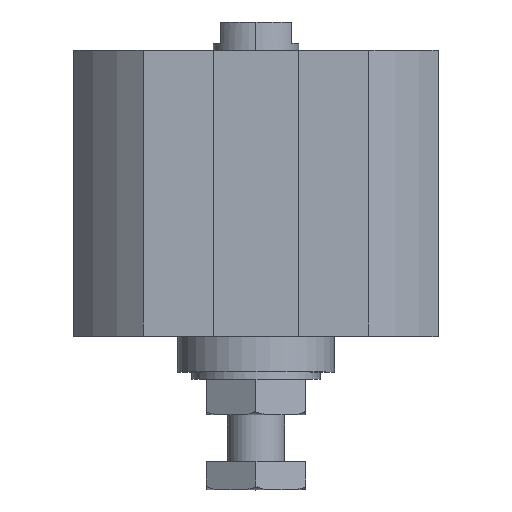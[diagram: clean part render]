
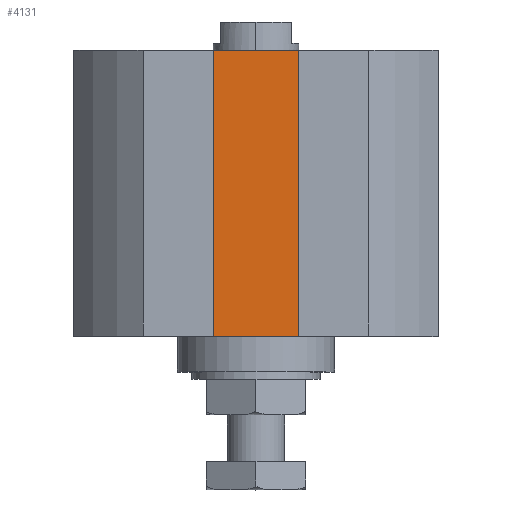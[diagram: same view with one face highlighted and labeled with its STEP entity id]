
A CAD part, top view. The second image highlights one B-rep face of the part: STEP entity #4131.
In plain terms, the highlighted planar face has unit normal (0, 0, 1).
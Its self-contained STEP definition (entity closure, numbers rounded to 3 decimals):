
#131 = AXIS2_PLACEMENT_3D ( 'NONE', #1100, #4196, #416 ) ;
#140 = FACE_OUTER_BOUND ( 'NONE', #576, .T. ) ;
#153 = LINE ( 'NONE', #3350, #938 ) ;
#286 = DIRECTION ( 'NONE',  ( 0., 1., 0. ) ) ;
#398 = VERTEX_POINT ( 'NONE', #2793 ) ;
#416 = DIRECTION ( 'NONE',  ( 1., 0., 0. ) ) ;
#417 = CARTESIAN_POINT ( 'NONE',  ( 0., 0., 17. ) ) ;
#558 = ORIENTED_EDGE ( 'NONE', *, *, #2387, .T. ) ;
#576 = EDGE_LOOP ( 'NONE', ( #2940, #4319, #3023, #558 ) ) ;
#590 = EDGE_CURVE ( 'NONE', #398, #3361, #2299, .T. ) ;
#591 = VECTOR ( 'NONE', #4389, 1000. ) ;
#938 = VECTOR ( 'NONE', #1277, 1000. ) ;
#1100 = CARTESIAN_POINT ( 'NONE',  ( 0., -40., 17. ) ) ;
#1277 = DIRECTION ( 'NONE',  ( 0., 1., 0. ) ) ;
#1640 = VERTEX_POINT ( 'NONE', #4402 ) ;
#2160 = VECTOR ( 'NONE', #286, 1000. ) ;
#2299 = LINE ( 'NONE', #3703, #591 ) ;
#2319 = CARTESIAN_POINT ( 'NONE',  ( -7.7, -40., 17. ) ) ;
#2387 = EDGE_CURVE ( 'NONE', #3361, #3485, #153, .T. ) ;
#2657 = LINE ( 'NONE', #417, #3612 ) ;
#2793 = CARTESIAN_POINT ( 'NONE',  ( -7.7, -40., 17. ) ) ;
#2861 = LINE ( 'NONE', #2319, #2160 ) ;
#2908 = CARTESIAN_POINT ( 'NONE',  ( 7.7, 0., 17. ) ) ;
#2940 = ORIENTED_EDGE ( 'NONE', *, *, #3063, .F. ) ;
#3023 = ORIENTED_EDGE ( 'NONE', *, *, #590, .T. ) ;
#3063 = EDGE_CURVE ( 'NONE', #1640, #3485, #2657, .T. ) ;
#3143 = DIRECTION ( 'NONE',  ( 1., 0., 0. ) ) ;
#3350 = CARTESIAN_POINT ( 'NONE',  ( 7.7, -40., 17. ) ) ;
#3361 = VERTEX_POINT ( 'NONE', #3864 ) ;
#3399 = PLANE ( 'NONE',  #131 ) ;
#3485 = VERTEX_POINT ( 'NONE', #2908 ) ;
#3612 = VECTOR ( 'NONE', #3143, 1000. ) ;
#3703 = CARTESIAN_POINT ( 'NONE',  ( 0., -40., 17. ) ) ;
#3864 = CARTESIAN_POINT ( 'NONE',  ( 7.7, -40., 17. ) ) ;
#3900 = EDGE_CURVE ( 'NONE', #398, #1640, #2861, .T. ) ;
#4131 = ADVANCED_FACE ( 'NONE', ( #140 ), #3399, .T. ) ;
#4196 = DIRECTION ( 'NONE',  ( 0., 0., 1. ) ) ;
#4319 = ORIENTED_EDGE ( 'NONE', *, *, #3900, .F. ) ;
#4389 = DIRECTION ( 'NONE',  ( 1., 0., 0. ) ) ;
#4402 = CARTESIAN_POINT ( 'NONE',  ( -7.7, 0., 17. ) ) ;
